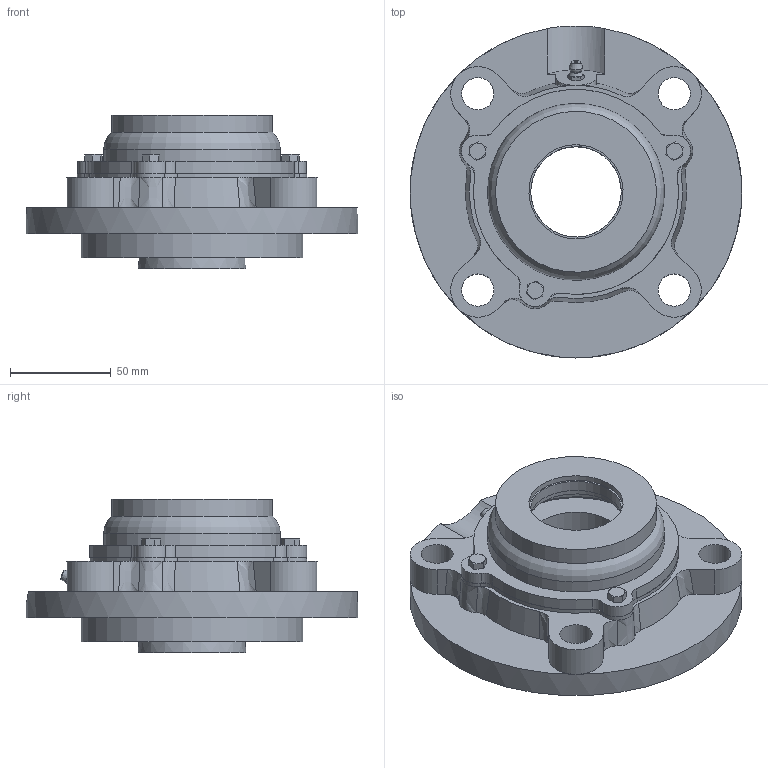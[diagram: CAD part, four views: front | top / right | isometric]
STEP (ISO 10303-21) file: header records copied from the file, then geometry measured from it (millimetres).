
FILE_DESCRIPTION((''),'2;1');
FILE_NAME('\\Ts-tgl068\j-cad-d-base\00.3DCADデータ作成フォルダ\02.フランジ形\CUKFC200\CUKFC210C+H.stp','2014-05-22T08:55:04',('btec_1106_2'),(''),'Autodesk Inventor 2012','Autodesk Inventor 2012','');
FILE_SCHEMA(('AUTOMOTIVE_DESIGN { 1 0 10303 214 1 1 1 1 }'));
Length unit declared in the file: millimetre
Products named in the file (7): CUKFC200C+H; CFC210; UK210; GU1; 210C45R; 210C45; M5X0
Assembly tree (8 placements, depth 3):
  CUKFC200C+H
    CFC210
    UK210
    GU1
    210C45R
      210C45
      M5X0  x3
Bounding box: 165 x 165 x 76.5 mm (x, y, z)
Volume: 537362.6 mm3; surface area: 126923.5 mm2
Topology: 7 solids, 7 shells, 302 faces, 762 edges, 490 vertices
Faces by surface type: plane 117, cylinder 88, cone 75, bspline 14, sphere 4, torus 4
Full cylindrical faces by diameter (mm): 4.134 x3, 5 x3, 5.359 x1, 6 x3, 6.35 x1, 16 x4, 45 x2, 46.8 x2, 63 x2, 80 x1, 88 x2, 92 x2, 110 x1, 165 x1
Entity records: 8620 total; most frequent: CARTESIAN_POINT 2389, ORIENTED_EDGE 1264, DIRECTION 1239, EDGE_CURVE 632, AXIS2_PLACEMENT_3D 523, VERTEX_POINT 429, EDGE_LOOP 348, FACE_OUTER_BOUND 268
